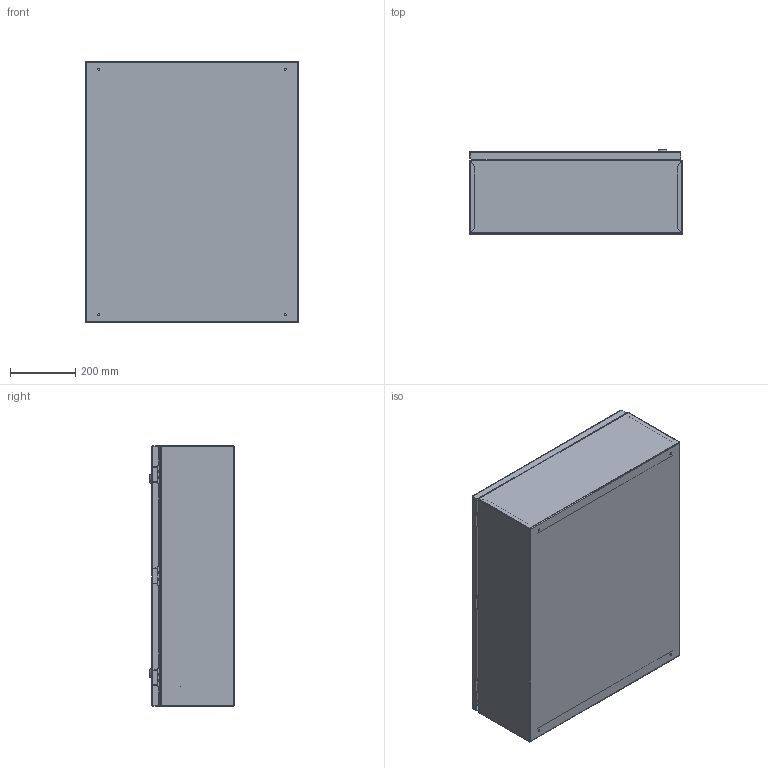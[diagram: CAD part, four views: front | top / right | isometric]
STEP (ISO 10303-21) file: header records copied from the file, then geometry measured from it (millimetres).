
FILE_DESCRIPTION (( 'STEP AP214' ), '1' );
FILE_NAME ('ÙÌÏ-04-800õ650õ250-IP54-ÓÕË2-ÊÝÀÇ.STEP', '2023-01-24T12:23:03', ( '' ), ( '' ), 'SwSTEP 2.0', 'SolidWorks 2018', '' );
FILE_SCHEMA (( 'AUTOMOTIVE_DESIGN' ));
Length unit declared in the file: millimetre
Products named in the file (1): ÙÌÏ-04-800õ650õ250-IP54-ÓÕË2-ÊÝÀÇ
Bounding box: 650 x 256.7 x 800 mm (x, y, z)
Surface area: 3496631 mm2 (no closed solid volume)
Topology: 0 solids, 39 shells, 204 faces, 777 edges, 602 vertices
Faces by surface type: plane 93, cylinder 75, bspline 20, torus 12, cone 4
Entity records: 12271 total; most frequent: CARTESIAN_POINT 3580, DIRECTION 1348, ORIENTED_EDGE 1066, EDGE_CURVE 777, VERTEX_POINT 602, AXIS2_PLACEMENT_3D 456, VECTOR 436, LINE 436
